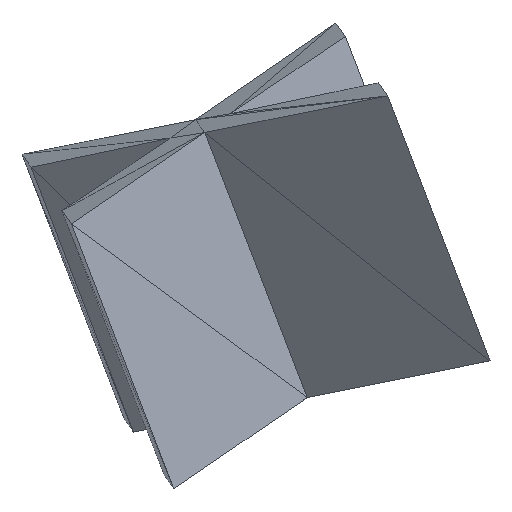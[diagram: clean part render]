
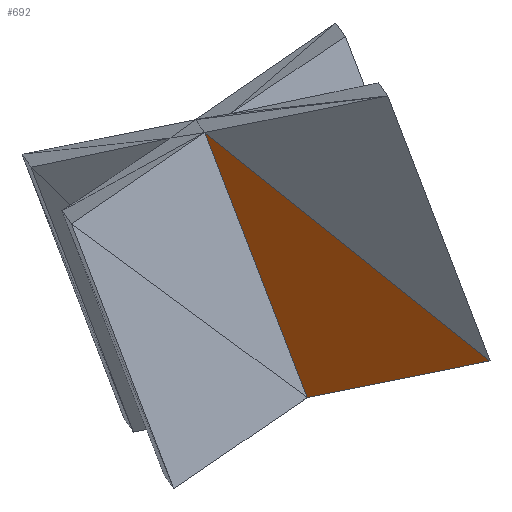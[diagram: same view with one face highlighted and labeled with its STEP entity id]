
A CAD part, left-side view. The second image highlights one B-rep face of the part: STEP entity #692.
In plain terms, the highlighted planar face has unit normal (-0.825, 0.379, -0.42) as drawn and (0.824, -0.379, 0.42) by its records, which use the part's own axes.
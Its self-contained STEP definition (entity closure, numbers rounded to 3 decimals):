
#66=DIRECTION('',(0.296,-0.345,-0.891));
#83=DIRECTION('',(-0.04,-0.78,-0.624));
#95=DIRECTION('',(-0.483,-0.859,0.172));
#121=VECTOR('',#66,1.);
#138=VECTOR('',#83,1.);
#150=VECTOR('',#95,1.);
#156=CARTESIAN_POINT('',(-4.076,-3.623,0.461));
#173=CARTESIAN_POINT('',(-3.965,-3.752,0.126));
#174=CARTESIAN_POINT('',(-4.095,-3.983,0.173));
#180=VERTEX_POINT('',#156);
#197=VERTEX_POINT('',#173);
#198=VERTEX_POINT('',#174);
#207=LINE('',#156,#121);
#213=LINE('',#156,#138);
#214=LINE('',#173,#150);
#273=EDGE_CURVE('',#180,#197,#207,.T.);
#279=EDGE_CURVE('',#180,#198,#213,.T.);
#280=EDGE_CURVE('',#197,#198,#214,.T.);
#345=ORIENTED_EDGE('',*,*,#279,.T.);
#405=ORIENTED_EDGE('',*,*,#273,.F.);
#412=ORIENTED_EDGE('',*,*,#280,.F.);
#472=EDGE_LOOP('',(#345,#412,#405));
#516=FACE_OUTER_BOUND('',#472,.T.);
#564=DIRECTION('',(0.824,-0.379,0.42));
#565=AXIS2_PLACEMENT_3D('',#156,#564,#83);
#648=PLANE('',#565);
#692=ADVANCED_FACE('',(#516),#648,.T.);
